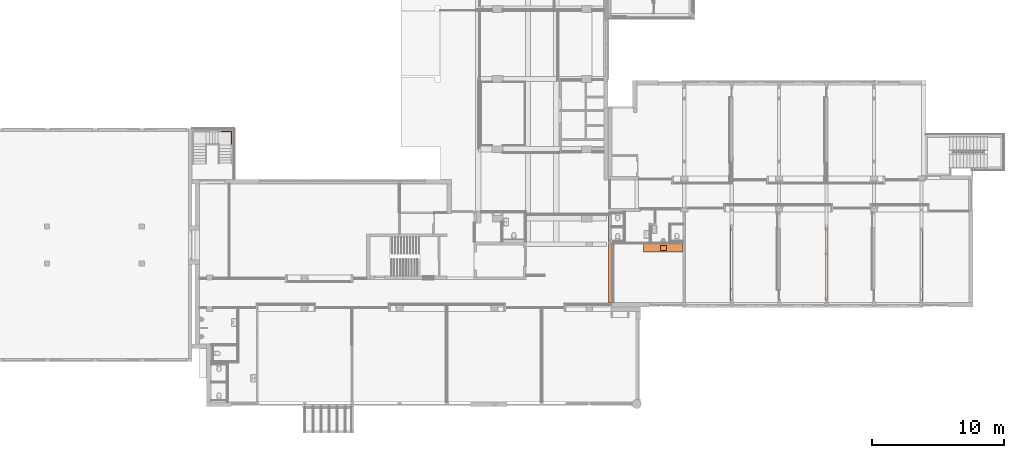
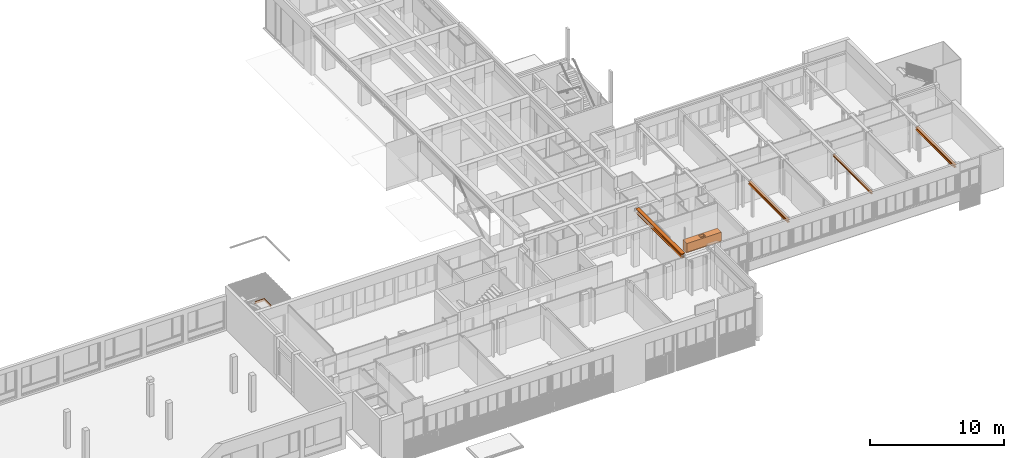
# One storey, part 113 of 117: 6 proxies, 1 element without a shape of its own.
"""IFC2X3 building model written with IfcOpenShell, lengths in millimetres."""

from ifc_helpers import new_model, entity, si_unit, converted_unit, derived_unit, money_unit, direction, frame, origin_with_axes, place, context, subcontext, project, spatial, open_shell, faceted_brep, surface_model, material, type_object, element, aggregate, save


model = new_model("IFC2X3")

# Units and contexts
model_context = context("Model", 3, precision=0.01, world=origin_with_axes(), true_north=direction((0.0, 1.0)))
body_context = subcontext(model_context, "Body", "Model", "MODEL_VIEW")
ifc_project = project(units=[si_unit("LENGTHUNIT", "METRE", prefix="MILLI"), si_unit("AREAUNIT", "SQUARE_METRE"), si_unit("VOLUMEUNIT", "CUBIC_METRE"), converted_unit("PLANEANGLEUNIT", "DEGREE", entity("IfcPlaneAngleMeasure", 0.0174532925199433), si_unit("PLANEANGLEUNIT", "RADIAN"), dimensions=[0, 0, 0, 0, 0, 0, 0]), money_unit("EUR"), converted_unit("TIMEUNIT", "Year", entity("IfcTimeMeasure", 31557600.0), si_unit("TIMEUNIT", "SECOND"), dimensions=[0, 0, 1, 0, 0, 0, 0]), si_unit("MASSUNIT", "GRAM", prefix="KILO"), si_unit("THERMODYNAMICTEMPERATUREUNIT", "DEGREE_CELSIUS"), si_unit("LUMINOUSINTENSITYUNIT", "LUMEN"), si_unit("ENERGYUNIT", "JOULE", prefix="MEGA"), derived_unit("THERMALCONDUCTANCEUNIT", [(si_unit("POWERUNIT", "WATT"), 1), (si_unit("LENGTHUNIT", "METRE"), -1), (si_unit("THERMODYNAMICTEMPERATUREUNIT", "KELVIN"), -1)]), derived_unit("SPECIFICHEATCAPACITYUNIT", [(si_unit("ENERGYUNIT", "JOULE"), 1), (si_unit("MASSUNIT", "GRAM", prefix="KILO"), -1), (si_unit("THERMODYNAMICTEMPERATUREUNIT", "KELVIN"), -1)]), derived_unit("MASSDENSITYUNIT", [(si_unit("MASSUNIT", "GRAM", prefix="KILO"), 1), (si_unit("VOLUMEUNIT", "CUBIC_METRE"), -1)])], contexts=[model_context])

# Site, building, storey
site_placement = place(None, origin_with_axes())
site = spatial("IfcSite", under=ifc_project, at=site_placement, Name="Site", CompositionType="ELEMENT")
building_placement = place(site_placement, origin_with_axes())
building = spatial("IfcBuilding", under=site, at=building_placement, Name="Naam gebouw", CompositionType="ELEMENT")
storey_placement = place(building_placement, frame((0.0, 0.0, 4150.0), z_axis=(0.0, 0.0, 1.0), x_axis=(1.0, 0.0, 0.0)))
storey = spatial("IfcBuildingStorey", under=building, at=storey_placement, Name="1e verdieping N", CompositionType="ELEMENT", Elevation=4150.0)

# Proxies
ifc_material_1 = material(Name="Metaal - Staal AFW")
building_element_proxy_type_1 = type_object("IfcBuildingElementProxyType", Name="HEB balk 27", PredefinedType="NOTDEFINED")
proxy_1_placement = place(storey_placement, frame((54000.0, 11130.91242510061, 2720.0), z_axis=(0.0, 0.0, 1.0), x_axis=(0.0, -1.0, 0.0)))
element("IfcBuildingElementProxy", 1, at=proxy_1_placement, inside=storey, type_object=building_element_proxy_type_1, material=ifc_material_1, Name="_Boom-x", context=body_context, shape_type="Brep", body=[
    faceted_brep([(0.0, -120.0, 0.0), (-5785.0, -120.0000000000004, 0.0), (-5785.0, 119.9999999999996, 0.0), (0.0, 120.0, 0.0), (0.0, -120.0, 17.0), (-5785.0, -120.0000000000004, 17.00000000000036), (-5785.0, -26.00000000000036, 17.00000000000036), (-5785.0, -15.50000000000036, 19.81346652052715), (-5785.0, -7.813466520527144, 27.50000000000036), (-5785.0, -5.000000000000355, 38.00000000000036), (-5785.0, -5.000000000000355, 202.0000000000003), (-5785.0, -7.813466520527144, 212.5000000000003), (-5785.0, -15.50000000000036, 220.1865334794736), (-5785.0, -26.00000000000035, 223.0000000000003), (-5785.0, -120.0000000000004, 223.0000000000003), (-5785.0, -120.0000000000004, 240.0000000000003), (-5785.0, 119.9999999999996, 240.0000000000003), (-5785.0, 119.9999999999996, 223.0000000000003), (-5785.0, 25.99999999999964, 223.0000000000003), (-5785.0, 15.49999999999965, 220.1865334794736), (-5785.0, 7.813466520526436, 212.5000000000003), (-5785.0, 4.999999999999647, 202.0000000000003), (-5785.0, 4.999999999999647, 38.00000000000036), (-5785.0, 7.813466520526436, 27.50000000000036), (-5785.0, 15.49999999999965, 19.81346652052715), (-5785.0, 25.99999999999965, 17.00000000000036), (-5785.0, 119.9999999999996, 17.00000000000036), (0.0, 120.0, 17.0), (0.0, 26.0, 17.0), (0.0, 15.5, 19.8134665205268), (0.0, 7.81346652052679, 27.5), (0.0, 5.000000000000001, 38.00000000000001), (0.0, 5.000000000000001, 202.0), (0.0, 7.81346652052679, 212.5), (0.0, 15.5, 220.1865334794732), (0.0, 26.0, 223.0), (0.0, 120.0, 223.0), (0.0, 120.0, 240.0), (0.0, -120.0, 240.0), (0.0, -120.0, 223.0), (0.0, -26.0, 223.0), (0.0, -15.5, 220.1865334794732), (0.0, -7.81346652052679, 212.5), (0.0, -5.000000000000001, 202.0), (0.0, -5.000000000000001, 38.00000000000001), (0.0, -7.81346652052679, 27.5), (0.0, -15.5, 19.8134665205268), (0.0, -26.0, 17.0)], [[[0, 1, 2, 3]], [[4, 5, 1, 0]], [[1, 5, 6, 7, 8, 9, 10, 11, 12, 13, 14, 15, 16, 17, 18, 19, 20, 21, 22, 23, 24, 25, 26, 2]], [[3, 2, 26, 27]], [[0, 3, 27, 28, 29, 30, 31, 32, 33, 34, 35, 36, 37, 38, 39, 40, 41, 42, 43, 44, 45, 46, 47, 4]], [[47, 6, 5, 4]], [[46, 7, 6, 47]], [[45, 8, 7, 46]], [[44, 9, 8, 45]], [[43, 10, 9, 44]], [[42, 11, 10, 43]], [[41, 12, 11, 42]], [[40, 13, 12, 41]], [[39, 14, 13, 40]], [[38, 15, 14, 39]], [[37, 16, 15, 38]], [[36, 17, 16, 37]], [[35, 18, 17, 36]], [[34, 19, 18, 35]], [[33, 20, 19, 34]], [[32, 21, 20, 33]], [[31, 22, 21, 32]], [[30, 23, 22, 31]], [[29, 24, 23, 30]], [[28, 25, 24, 29]], [[27, 26, 25, 28]]]),
])
proxy_2_placement = place(storey_placement, frame((46800.0, 11130.91242510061, 2820.0), z_axis=(0.0, 0.0, 1.0), x_axis=(0.0, -1.0, 0.0)))
element("IfcBuildingElementProxy", 2, at=proxy_2_placement, inside=storey, type_object=building_element_proxy_type_1, material=ifc_material_1, Name="_Boom-x", context=body_context, shape_type="Brep", body=[
    faceted_brep([(0.0, -80.0, 0.0), (-5785.000000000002, -80.00000000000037, 0.0), (-5785.000000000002, 79.99999999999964, 0.0), (0.0, 80.0, 0.0), (0.0, -80.0, 13.0), (-5785.000000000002, -80.00000000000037, 13.00000000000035), (-5785.000000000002, -19.00000000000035, 13.00000000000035), (-5785.000000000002, -11.50000000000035, 15.00961894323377), (-5785.000000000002, -6.009618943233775, 20.50000000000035), (-5785.000000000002, -4.000000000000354, 28.00000000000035), (-5785.000000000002, -4.000000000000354, 132.0000000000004), (-5785.000000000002, -6.009618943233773, 139.5000000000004), (-5785.000000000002, -11.50000000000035, 144.9903810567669), (-5785.000000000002, -19.00000000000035, 147.0000000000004), (-5785.000000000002, -80.00000000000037, 147.0000000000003), (-5785.000000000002, -80.00000000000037, 160.0000000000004), (-5785.000000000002, 79.99999999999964, 160.0000000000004), (-5785.000000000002, 79.99999999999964, 147.0000000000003), (-5785.000000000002, 18.99999999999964, 147.0000000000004), (-5785.000000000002, 11.49999999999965, 144.9903810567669), (-5785.000000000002, 6.009618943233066, 139.5000000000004), (-5785.000000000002, 3.999999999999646, 132.0000000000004), (-5785.000000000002, 3.999999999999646, 28.00000000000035), (-5785.000000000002, 6.009618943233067, 20.50000000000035), (-5785.000000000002, 11.49999999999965, 15.00961894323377), (-5785.000000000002, 18.99999999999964, 13.00000000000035), (-5785.000000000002, 79.99999999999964, 13.00000000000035), (0.0, 80.0, 13.0), (0.0, 19.0, 13.0), (0.0, 11.5, 15.00961894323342), (0.0, 6.009618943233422, 20.5), (0.0, 4.0, 28.0), (0.0, 4.0, 132.0), (0.0, 6.00961894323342, 139.5), (0.0, 11.5, 144.9903810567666), (0.0, 19.0, 147.0), (0.0, 80.0, 147.0), (0.0, 80.0, 160.0), (0.0, -80.0, 160.0), (0.0, -80.0, 147.0), (0.0, -19.0, 147.0), (0.0, -11.5, 144.9903810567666), (0.0, -6.00961894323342, 139.5), (0.0, -4.0, 132.0), (0.0, -4.0, 28.0), (0.0, -6.009618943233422, 20.5), (0.0, -11.5, 15.00961894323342), (0.0, -19.0, 13.0)], [[[0, 1, 2, 3]], [[4, 5, 1, 0]], [[1, 5, 6, 7, 8, 9, 10, 11, 12, 13, 14, 15, 16, 17, 18, 19, 20, 21, 22, 23, 24, 25, 26, 2]], [[3, 2, 26, 27]], [[0, 3, 27, 28, 29, 30, 31, 32, 33, 34, 35, 36, 37, 38, 39, 40, 41, 42, 43, 44, 45, 46, 47, 4]], [[47, 6, 5, 4]], [[46, 7, 6, 47]], [[45, 8, 7, 46]], [[44, 9, 8, 45]], [[43, 10, 9, 44]], [[42, 11, 10, 43]], [[41, 12, 11, 42]], [[40, 13, 12, 41]], [[39, 14, 13, 40]], [[38, 15, 14, 39]], [[37, 16, 15, 38]], [[36, 17, 16, 37]], [[35, 18, 17, 36]], [[34, 19, 18, 35]], [[33, 20, 19, 34]], [[32, 21, 20, 33]], [[31, 22, 21, 32]], [[30, 23, 22, 31]], [[29, 24, 23, 30]], [[28, 25, 24, 29]], [[27, 26, 25, 28]]]),
])
proxy_3_placement = place(storey_placement, frame((39599.99999999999, 11130.91242510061, 2740.0), z_axis=(0.0, 0.0, 1.0), x_axis=(0.0, -1.0, 0.0)))
element("IfcBuildingElementProxy", 3, at=proxy_3_placement, inside=storey, type_object=building_element_proxy_type_1, material=ifc_material_1, Name="_Boom-x", context=body_context, shape_type="Brep", body=[
    faceted_brep([(0.0, -120.0, 0.0), (-5880.000000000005, -120.0000000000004, 0.0), (-5880.000000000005, 119.9999999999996, 0.0), (0.0, 120.0, 0.0), (0.0, -120.0, 17.0), (-5880.000000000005, -120.0000000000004, 17.00000000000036), (-5880.000000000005, -26.00000000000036, 17.00000000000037), (-5880.000000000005, -15.50000000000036, 19.81346652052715), (-5880.000000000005, -7.81346652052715, 27.50000000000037), (-5880.000000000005, -5.000000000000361, 38.00000000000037), (-5880.000000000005, -5.000000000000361, 202.0000000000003), (-5880.000000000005, -7.81346652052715, 212.5000000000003), (-5880.000000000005, -15.50000000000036, 220.1865334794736), (-5880.000000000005, -26.00000000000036, 223.0000000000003), (-5880.000000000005, -120.0000000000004, 223.0000000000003), (-5880.000000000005, -120.0000000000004, 240.0000000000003), (-5880.000000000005, 119.9999999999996, 240.0000000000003), (-5880.000000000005, 119.9999999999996, 223.0000000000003), (-5880.000000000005, 25.99999999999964, 223.0000000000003), (-5880.000000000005, 15.49999999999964, 220.1865334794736), (-5880.000000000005, 7.813466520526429, 212.5000000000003), (-5880.000000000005, 4.999999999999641, 202.0000000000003), (-5880.000000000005, 4.999999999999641, 38.00000000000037), (-5880.000000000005, 7.813466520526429, 27.50000000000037), (-5880.000000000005, 15.49999999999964, 19.81346652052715), (-5880.000000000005, 25.99999999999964, 17.00000000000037), (-5880.000000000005, 119.9999999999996, 17.00000000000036), (0.0, 120.0, 17.0), (0.0, 26.0, 17.0), (0.0, 15.5, 19.8134665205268), (0.0, 7.81346652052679, 27.5), (0.0, 5.000000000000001, 38.00000000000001), (0.0, 5.000000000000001, 202.0), (0.0, 7.81346652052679, 212.5), (0.0, 15.5, 220.1865334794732), (0.0, 26.0, 223.0), (0.0, 120.0, 223.0), (0.0, 120.0, 240.0), (0.0, -120.0, 240.0), (0.0, -120.0, 223.0), (0.0, -26.0, 223.0), (0.0, -15.5, 220.1865334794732), (0.0, -7.81346652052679, 212.5), (0.0, -5.000000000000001, 202.0), (0.0, -5.000000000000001, 38.00000000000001), (0.0, -7.81346652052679, 27.5), (0.0, -15.5, 19.8134665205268), (0.0, -26.0, 17.0)], [[[0, 1, 2, 3]], [[4, 5, 1, 0]], [[1, 5, 6, 7, 8, 9, 10, 11, 12, 13, 14, 15, 16, 17, 18, 19, 20, 21, 22, 23, 24, 25, 26, 2]], [[3, 2, 26, 27]], [[0, 3, 27, 28, 29, 30, 31, 32, 33, 34, 35, 36, 37, 38, 39, 40, 41, 42, 43, 44, 45, 46, 47, 4]], [[47, 6, 5, 4]], [[46, 7, 6, 47]], [[45, 8, 7, 46]], [[44, 9, 8, 45]], [[43, 10, 9, 44]], [[42, 11, 10, 43]], [[41, 12, 11, 42]], [[40, 13, 12, 41]], [[39, 14, 13, 40]], [[38, 15, 14, 39]], [[37, 16, 15, 38]], [[36, 17, 16, 37]], [[35, 18, 17, 36]], [[34, 19, 18, 35]], [[33, 20, 19, 34]], [[32, 21, 20, 33]], [[31, 22, 21, 32]], [[30, 23, 22, 31]], [[29, 24, 23, 30]], [[28, 25, 24, 29]], [[27, 26, 25, 28]]]),
])
proxy_4_placement = place(storey_placement, frame((30400.0, 10990.91242510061, 2800.000000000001), z_axis=(0.0, 0.0, 1.0), x_axis=(0.0, -1.0, 0.0)))
element("IfcBuildingElementProxy", 4, at=proxy_4_placement, inside=storey, type_object=building_element_proxy_type_1, material=ifc_material_1, Name="_Boom-x", context=body_context, shape_type="Brep", body=[
    faceted_brep([(0.0, -150.0, 0.0), (-6880.000000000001, -150.0000000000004, 0.0), (-6880.000000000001, 149.9999999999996, 0.0), (0.0, 150.0, 0.0), (0.0, -150.0, 24.0), (-6880.000000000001, -150.0000000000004, 24.00000000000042), (-6880.000000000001, -33.75000000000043, 24.00000000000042), (-6880.000000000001, -20.25000000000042, 27.61731409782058), (-6880.000000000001, -10.36731409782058, 37.50000000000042), (-6880.000000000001, -6.750000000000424, 51.00000000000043), (-6880.000000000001, -6.750000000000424, 349.0000000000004), (-6880.000000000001, -10.36731409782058, 362.5000000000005), (-6880.000000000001, -20.25000000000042, 372.3826859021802), (-6880.000000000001, -33.75000000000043, 376.0000000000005), (-6880.000000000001, -150.0000000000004, 376.0000000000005), (-6880.000000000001, -150.0000000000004, 400.0000000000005), (-6880.000000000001, 149.9999999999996, 400.0000000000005), (-6880.000000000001, 149.9999999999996, 376.0000000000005), (-6880.000000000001, 33.74999999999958, 376.0000000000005), (-6880.000000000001, 20.24999999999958, 372.3826859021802), (-6880.000000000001, 10.36731409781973, 362.5000000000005), (-6880.000000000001, 6.749999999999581, 349.0000000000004), (-6880.000000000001, 6.749999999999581, 51.00000000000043), (-6880.000000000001, 10.36731409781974, 37.50000000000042), (-6880.000000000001, 20.24999999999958, 27.61731409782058), (-6880.000000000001, 33.74999999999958, 24.00000000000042), (-6880.000000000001, 149.9999999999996, 24.00000000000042), (0.0, 150.0, 24.0), (0.0, 33.75, 24.0), (0.0, 20.25, 27.61731409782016), (0.0, 10.36731409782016, 37.5), (0.0, 6.750000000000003, 51.00000000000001), (0.0, 6.750000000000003, 349.0), (0.0, 10.36731409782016, 362.5), (0.0, 20.25, 372.3826859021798), (0.0, 33.75, 376.0), (0.0, 150.0, 376.0), (0.0, 150.0, 400.0), (0.0, -150.0, 400.0), (0.0, -150.0, 376.0), (0.0, -33.75, 376.0), (0.0, -20.25, 372.3826859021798), (0.0, -10.36731409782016, 362.5), (0.0, -6.750000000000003, 349.0), (0.0, -6.750000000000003, 51.00000000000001), (0.0, -10.36731409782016, 37.5), (0.0, -20.25, 27.61731409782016), (0.0, -33.75, 24.0)], [[[0, 1, 2, 3]], [[4, 5, 1, 0]], [[1, 5, 6, 7, 8, 9, 10, 11, 12, 13, 14, 15, 16, 17, 18, 19, 20, 21, 22, 23, 24, 25, 26, 2]], [[3, 2, 26, 27]], [[0, 3, 27, 28, 29, 30, 31, 32, 33, 34, 35, 36, 37, 38, 39, 40, 41, 42, 43, 44, 45, 46, 47, 4]], [[47, 6, 5, 4]], [[46, 7, 6, 47]], [[45, 8, 7, 46]], [[44, 9, 8, 45]], [[43, 10, 9, 44]], [[42, 11, 10, 43]], [[41, 12, 11, 42]], [[40, 13, 12, 41]], [[39, 14, 13, 40]], [[38, 15, 14, 39]], [[37, 16, 15, 38]], [[36, 17, 16, 37]], [[35, 18, 17, 36]], [[34, 19, 18, 35]], [[33, 20, 19, 34]], [[32, 21, 20, 33]], [[31, 22, 21, 32]], [[30, 23, 22, 31]], [[29, 24, 23, 30]], [[28, 25, 24, 29]], [[27, 26, 25, 28]]]),
])
building_element_proxy_type_2 = type_object("IfcBuildingElementProxyType", Name="Keukenopstelling 27", PredefinedType="NOTDEFINED")
proxy_5_placement = place(storey_placement, frame((35324.99999999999, 15440.91242510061, 0.0), z_axis=(0.0, 0.0, 1.0), x_axis=(-1.0, 0.0, 0.0)))
element("IfcBuildingElementProxy", 5, at=proxy_5_placement, inside=storey, type_object=building_element_proxy_type_2, Name="_Object-x", context=body_context, shape_type="SurfaceModel", body=[
    faceted_brep([(-600.0000000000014, 0.0, 0.0), (2400.000000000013, 0.0, 0.0), (2400.000000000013, 0.0, 100.0), (-600.0000000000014, 0.0, 100.0), (-600.0000000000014, 549.9999999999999, 0.0), (2400.000000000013, 549.9999999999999, 0.0), (2400.000000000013, 549.9999999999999, 100.0), (-600.0000000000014, 549.9999999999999, 100.0)], [[[0, 1, 2, 3]], [[0, 4, 5, 1]], [[1, 5, 6, 2]], [[3, 2, 6, 7]], [[4, 0, 3, 7]], [[5, 4, 7, 6]]]),
    faceted_brep([(-600.0000000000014, 600.0, 850.0), (2400.000000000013, 600.0, 850.0), (2400.000000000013, 0.0, 850.0), (-600.0000000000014, 0.0, 850.0), (649.9999999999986, 55.00000000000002, 850.0), (1149.999999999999, 54.99999999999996, 850.0), (1149.999999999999, 504.9999999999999, 850.0), (649.9999999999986, 505.0, 850.0), (-600.0000000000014, 600.0, 900.0), (2400.000000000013, 600.0, 900.0), (2400.000000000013, 0.0, 900.0), (-600.0000000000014, 0.0, 900.0), (649.9999999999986, 55.00000000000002, 900.0), (1149.999999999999, 54.99999999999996, 900.0), (1149.999999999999, 504.9999999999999, 900.0), (649.9999999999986, 505.0, 900.0)], [[[0, 1, 2, 3], [4, 5, 6, 7]], [[0, 8, 9, 1]], [[1, 9, 10, 2]], [[2, 10, 11, 3]], [[3, 11, 8, 0]], [[12, 13, 5, 4]], [[13, 14, 6, 5]], [[14, 15, 7, 6]], [[15, 12, 4, 7]], [[10, 9, 8, 11], [12, 15, 14, 13]]]),
    faceted_brep([(-600.0000000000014, 600.0, 99.99999999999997), (2400.000000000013, 600.0, 99.99999999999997), (2400.000000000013, 0.0, 99.99999999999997), (-600.0000000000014, 0.0, 99.99999999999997), (649.9999999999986, 55.00000000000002, 99.99999999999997), (1149.999999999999, 54.99999999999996, 99.99999999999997), (1149.999999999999, 504.9999999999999, 99.99999999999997), (649.9999999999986, 505.0, 99.99999999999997), (-600.0000000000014, 600.0, 850.0), (2400.000000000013, 600.0, 850.0), (2400.000000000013, 0.0, 850.0), (-600.0000000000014, 0.0, 850.0), (649.9999999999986, 55.00000000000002, 850.0), (1149.999999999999, 54.99999999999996, 850.0), (1149.999999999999, 504.9999999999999, 850.0), (649.9999999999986, 505.0, 850.0)], [[[0, 1, 2, 3], [4, 5, 6, 7]], [[0, 8, 9, 1]], [[1, 9, 10, 2]], [[2, 10, 11, 3]], [[3, 11, 8, 0]], [[12, 13, 5, 4]], [[13, 14, 6, 5]], [[14, 15, 7, 6]], [[15, 12, 4, 7]], [[10, 9, 8, 11], [12, 15, 14, 13]]]),
    surface_model("IfcShellBasedSurfaceModel", [(1104.999999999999, 479.9999999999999, 705.0), (694.9999999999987, 480.0, 705.0), (694.9999999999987, 480.0, 899.9999999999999), (1104.999999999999, 479.9999999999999, 899.9999999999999), (1112.6536686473, 478.4775906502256, 705.0), (1119.14213562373, 474.1421356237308, 705.0), (1123.477590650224, 467.6536686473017, 705.0), (1124.999999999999, 459.9999999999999, 705.0), (1124.999999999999, 149.9999999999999, 705.0), (1123.477590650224, 142.3463313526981, 705.0), (1119.14213562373, 135.857864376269, 705.0), (1112.6536686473, 131.5224093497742, 705.0), (1104.999999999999, 129.9999999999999, 705.0), (694.9999999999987, 129.9999999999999, 705.0), (687.3463313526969, 131.5224093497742, 705.0), (680.8578643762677, 135.857864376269, 705.0), (676.5224093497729, 142.3463313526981, 705.0), (674.9999999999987, 150.0, 705.0), (674.9999999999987, 459.9999999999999, 705.0), (676.522409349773, 467.6536686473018, 705.0), (680.8578643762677, 474.1421356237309, 705.0), (687.346331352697, 478.4775906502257, 705.0), (687.346331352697, 478.4775906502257, 899.9999999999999), (1112.6536686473, 478.4775906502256, 899.9999999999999), (1119.14213562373, 474.1421356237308, 899.9999999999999), (1123.477590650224, 467.6536686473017, 899.9999999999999), (1124.999999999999, 459.9999999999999, 899.9999999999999), (1124.999999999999, 149.9999999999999, 899.9999999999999), (1123.477590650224, 142.3463313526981, 899.9999999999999), (1119.14213562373, 135.857864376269, 899.9999999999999), (1112.6536686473, 131.5224093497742, 899.9999999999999), (1104.999999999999, 129.9999999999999, 899.9999999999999), (694.9999999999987, 129.9999999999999, 899.9999999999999), (687.3463313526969, 131.5224093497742, 899.9999999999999), (680.8578643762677, 135.857864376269, 899.9999999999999), (676.5224093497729, 142.3463313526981, 899.9999999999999), (674.9999999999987, 150.0, 899.9999999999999), (674.9999999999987, 459.9999999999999, 899.9999999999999), (676.522409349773, 467.6536686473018, 899.9999999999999), (680.8578643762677, 474.1421356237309, 899.9999999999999)], [open_shell([[[0, 1, 2, 3]], [[0, 4, 5, 6, 7, 8, 9, 10, 11, 12, 13, 14, 15, 16, 17, 18, 19, 20, 21, 1]], [[1, 21, 22, 2]], [[4, 0, 3, 23]], [[5, 4, 23, 24]], [[6, 5, 24, 25]], [[7, 6, 25, 26]], [[8, 7, 26, 27]], [[9, 8, 27, 28]], [[10, 9, 28, 29]], [[11, 10, 29, 30]], [[12, 11, 30, 31]], [[13, 12, 31, 32]], [[14, 13, 32, 33]], [[15, 14, 33, 34]], [[16, 15, 34, 35]], [[17, 16, 35, 36]], [[18, 17, 36, 37]], [[19, 18, 37, 38]], [[20, 19, 38, 39]], [[21, 20, 39, 22]]])]),
    faceted_brep([(1154.999999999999, 529.9999999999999, 899.9999999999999), (644.9999999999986, 530.0, 899.9999999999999), (644.9999999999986, 530.0, 904.9999999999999), (1154.999999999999, 529.9999999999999, 904.9999999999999), (1162.6536686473, 528.4775906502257, 899.9999999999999), (1169.14213562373, 524.142135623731, 899.9999999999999), (1173.477590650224, 517.6536686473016, 899.9999999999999), (1174.999999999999, 509.9999999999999, 899.9999999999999), (1174.999999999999, 49.99999999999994, 899.9999999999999), (1173.477590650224, 42.34633135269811, 899.9999999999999), (1169.14213562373, 35.85786437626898, 899.9999999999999), (1162.6536686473, 31.52240934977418, 899.9999999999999), (1154.999999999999, 29.99999999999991, 899.9999999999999), (644.9999999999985, 29.99999999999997, 899.9999999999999), (637.3463313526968, 31.52240934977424, 899.9999999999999), (630.8578643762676, 35.85786437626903, 899.9999999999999), (626.5224093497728, 42.34633135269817, 899.9999999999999), (624.9999999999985, 49.99999999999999, 899.9999999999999), (624.9999999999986, 510.0, 899.9999999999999), (626.5224093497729, 517.6536686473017, 899.9999999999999), (630.8578643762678, 524.142135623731, 899.9999999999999), (637.3463313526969, 528.4775906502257, 899.9999999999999), (1104.999999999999, 479.9999999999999, 899.9999999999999), (694.9999999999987, 480.0, 899.9999999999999), (687.346331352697, 478.4775906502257, 899.9999999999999), (680.8578643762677, 474.1421356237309, 899.9999999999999), (676.522409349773, 467.6536686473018, 899.9999999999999), (674.9999999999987, 459.9999999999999, 899.9999999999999), (674.9999999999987, 150.0, 899.9999999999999), (676.5224093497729, 142.3463313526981, 899.9999999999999), (680.8578643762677, 135.857864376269, 899.9999999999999), (687.3463313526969, 131.5224093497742, 899.9999999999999), (694.9999999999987, 129.9999999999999, 899.9999999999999), (1104.999999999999, 129.9999999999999, 899.9999999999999), (1112.6536686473, 131.5224093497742, 899.9999999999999), (1119.14213562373, 135.857864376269, 899.9999999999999), (1123.477590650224, 142.3463313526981, 899.9999999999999), (1124.999999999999, 149.9999999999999, 899.9999999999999), (1124.999999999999, 459.9999999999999, 899.9999999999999), (1123.477590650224, 467.6536686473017, 899.9999999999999), (1119.14213562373, 474.1421356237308, 899.9999999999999), (1112.6536686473, 478.4775906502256, 899.9999999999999), (637.3463313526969, 528.4775906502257, 904.9999999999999), (630.8578643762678, 524.142135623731, 904.9999999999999), (626.5224093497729, 517.6536686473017, 904.9999999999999), (624.9999999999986, 510.0, 904.9999999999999), (624.9999999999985, 49.99999999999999, 904.9999999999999), (626.5224093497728, 42.34633135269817, 904.9999999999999), (630.8578643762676, 35.85786437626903, 904.9999999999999), (637.3463313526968, 31.52240934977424, 904.9999999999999), (644.9999999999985, 29.99999999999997, 904.9999999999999), (1154.999999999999, 29.99999999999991, 904.9999999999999), (1162.6536686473, 31.52240934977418, 904.9999999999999), (1169.14213562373, 35.85786437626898, 904.9999999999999), (1173.477590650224, 42.34633135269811, 904.9999999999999), (1174.999999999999, 49.99999999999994, 904.9999999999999), (1174.999999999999, 509.9999999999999, 904.9999999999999), (1173.477590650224, 517.6536686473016, 904.9999999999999), (1169.14213562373, 524.142135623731, 904.9999999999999), (1162.6536686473, 528.4775906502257, 904.9999999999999), (1104.999999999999, 479.9999999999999, 904.9999999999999), (1112.6536686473, 478.4775906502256, 904.9999999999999), (1119.14213562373, 474.1421356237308, 904.9999999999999), (1123.477590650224, 467.6536686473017, 904.9999999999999), (1124.999999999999, 459.9999999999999, 904.9999999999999), (1124.999999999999, 149.9999999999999, 904.9999999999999), (1123.477590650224, 142.3463313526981, 904.9999999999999), (1119.14213562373, 135.857864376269, 904.9999999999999), (1112.6536686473, 131.5224093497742, 904.9999999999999), (1104.999999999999, 129.9999999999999, 904.9999999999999), (694.9999999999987, 129.9999999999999, 904.9999999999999), (687.3463313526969, 131.5224093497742, 904.9999999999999), (680.8578643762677, 135.857864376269, 904.9999999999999), (676.5224093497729, 142.3463313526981, 904.9999999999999), (674.9999999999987, 150.0, 904.9999999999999), (674.9999999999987, 459.9999999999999, 904.9999999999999), (676.522409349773, 467.6536686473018, 904.9999999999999), (680.8578643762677, 474.1421356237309, 904.9999999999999), (687.346331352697, 478.4775906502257, 904.9999999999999), (694.9999999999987, 480.0, 904.9999999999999)], [[[0, 1, 2, 3]], [[0, 4, 5, 6, 7, 8, 9, 10, 11, 12, 13, 14, 15, 16, 17, 18, 19, 20, 21, 1], [22, 23, 24, 25, 26, 27, 28, 29, 30, 31, 32, 33, 34, 35, 36, 37, 38, 39, 40, 41]], [[1, 21, 42, 2]], [[3, 2, 42, 43, 44, 45, 46, 47, 48, 49, 50, 51, 52, 53, 54, 55, 56, 57, 58, 59], [60, 61, 62, 63, 64, 65, 66, 67, 68, 69, 70, 71, 72, 73, 74, 75, 76, 77, 78, 79]], [[4, 0, 3, 59]], [[5, 4, 59, 58]], [[6, 5, 58, 57]], [[7, 6, 57, 56]], [[8, 7, 56, 55]], [[9, 8, 55, 54]], [[10, 9, 54, 53]], [[11, 10, 53, 52]], [[12, 11, 52, 51]], [[13, 12, 51, 50]], [[14, 13, 50, 49]], [[15, 14, 49, 48]], [[16, 15, 48, 47]], [[17, 16, 47, 46]], [[18, 17, 46, 45]], [[19, 18, 45, 44]], [[20, 19, 44, 43]], [[21, 20, 43, 42]], [[23, 22, 60, 79]], [[24, 23, 79, 78]], [[25, 24, 78, 77]], [[26, 25, 77, 76]], [[27, 26, 76, 75]], [[28, 27, 75, 74]], [[29, 28, 74, 73]], [[30, 29, 73, 72]], [[31, 30, 72, 71]], [[32, 31, 71, 70]], [[33, 32, 70, 69]], [[34, 33, 69, 68]], [[35, 34, 68, 67]], [[36, 35, 67, 66]], [[37, 36, 66, 65]], [[38, 37, 65, 64]], [[39, 38, 64, 63]], [[40, 39, 63, 62]], [[41, 40, 62, 61]], [[22, 41, 61, 60]]]),
])

# Stair, proxy
stair_placement = place(storey_placement, frame((1624.999999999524, 21575.82979156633, 0.0), z_axis=(0.0, 0.0, 1.0), x_axis=(1.0, 0.0, 0.0)))
stair = element("IfcStair", 6, at=stair_placement, inside=storey, Name="_Trap-x", ShapeType="NOTDEFINED")
ifc_material_2 = material(Name="Metaal - Staal C")
building_element_proxy_type_3 = type_object("IfcBuildingElementProxyType", Name="IfcBuildingElementProxy", PredefinedType="NOTDEFINED")
proxy_6_placement = place(stair_placement, origin_with_axes())
proxy_6 = element("IfcBuildingElementProxy", 7, at=proxy_6_placement, type_object=building_element_proxy_type_3, material=ifc_material_2, Name="_SS - 004", context=body_context, shape_type="Brep", body=[
    faceted_brep([(-766.3905328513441, 2440.000000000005, 1277.973684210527), (-762.2116780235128, 2440.000000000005, 1289.473684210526), (75.00000000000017, 2440.000000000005, 1289.473684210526), (75.00000000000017, 2440.000000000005, 1277.973684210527), (-762.211678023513, 2365.000000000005, 1289.473684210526), (-766.3905328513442, 2373.500000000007, 1277.973684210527), (-830.7085593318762, 2373.500000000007, 1100.973684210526), (-830.7085593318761, 2440.000000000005, 1100.973684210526), (-834.8874141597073, 2440.000000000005, 1089.473684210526), (-834.8874141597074, 2365.000000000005, 1089.473684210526), (0.0, 2365.000000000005, 1289.473684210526), (0.0, 1312.211678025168, 1289.473684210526), (74.99999999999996, 1312.211678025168, 1289.473684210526), (74.99999999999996, 1316.390532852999, 1277.973684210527), (8.499999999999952, 1316.390532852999, 1277.973684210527), (8.500000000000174, 2373.500000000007, 1277.973684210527), (8.500000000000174, 2373.500000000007, 1100.973684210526), (8.499999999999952, 1380.708559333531, 1100.973684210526), (74.99999999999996, 1380.708559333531, 1100.973684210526), (75.00000000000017, 2440.000000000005, 1100.973684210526), (75.00000000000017, 2440.000000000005, 1089.473684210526), (74.99999999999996, 1384.887414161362, 1089.473684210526), (0.0, 1384.887414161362, 1089.473684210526), (0.0, 2365.000000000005, 1089.473684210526)], [[[0, 1, 2, 3]], [[4, 1, 0, 5, 6, 7, 8, 9]], [[1, 4, 10, 11, 12, 2]], [[13, 3, 2, 12]], [[5, 0, 3, 13, 14, 15]], [[6, 5, 15, 16]], [[7, 6, 16, 17, 18, 19]], [[8, 7, 19, 20]], [[9, 8, 20, 21, 22, 23]], [[4, 9, 23, 10]], [[11, 10, 23, 22]], [[13, 12, 11, 22, 21, 18, 17, 14]], [[17, 16, 15, 14]], [[21, 20, 19, 18]]]),
])
aggregate(stair, [proxy_6])

save(model, "model.ifc")
